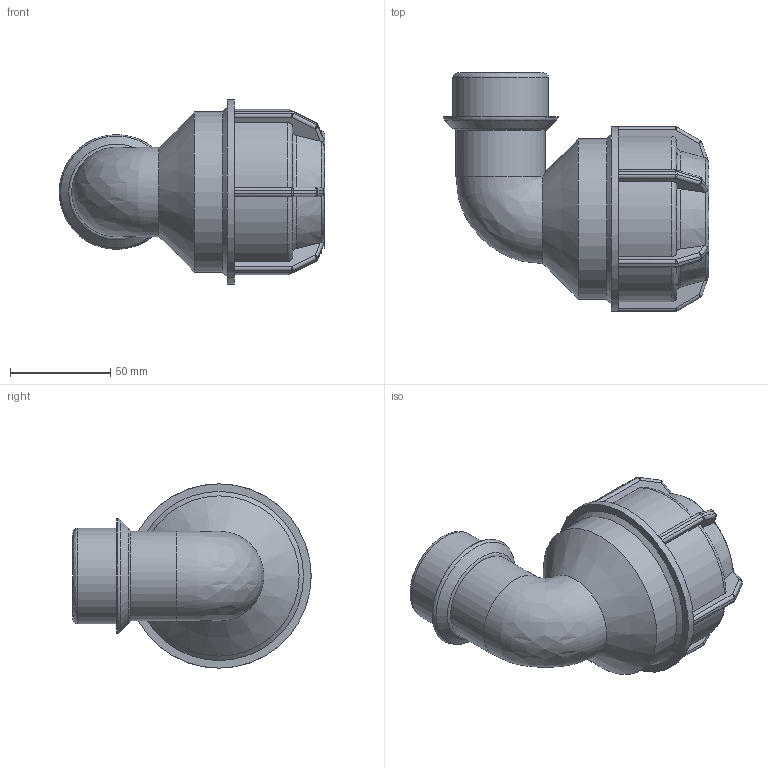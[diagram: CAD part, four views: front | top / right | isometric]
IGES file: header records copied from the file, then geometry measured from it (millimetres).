
Global section: file name: 148500050015.ipt; native system: Autodesk Inventor 2015; preprocessor: unknown; author: KIM; date: 20180409.131300; units: millimetre
Bounding box: 132.68 x 119 x 92 mm (x, y, z)
Volume: 269279.8 mm3; surface area: 66489.3 mm2
Topology: 1 solids, 1 shells, 213 faces, 513 edges, 299 vertices
Faces by surface type: plane 98, cylinder 59, sphere 24, revolution 22, cone 9, bspline 1
Full cylindrical faces by diameter (mm): 44.696 x1, 47.803 x1, 57.364 x1, 80 x1, 92 x1
